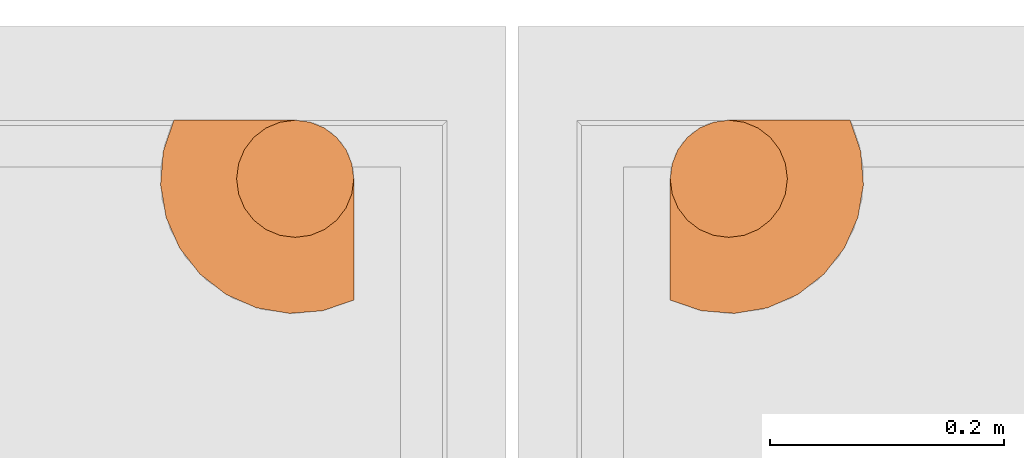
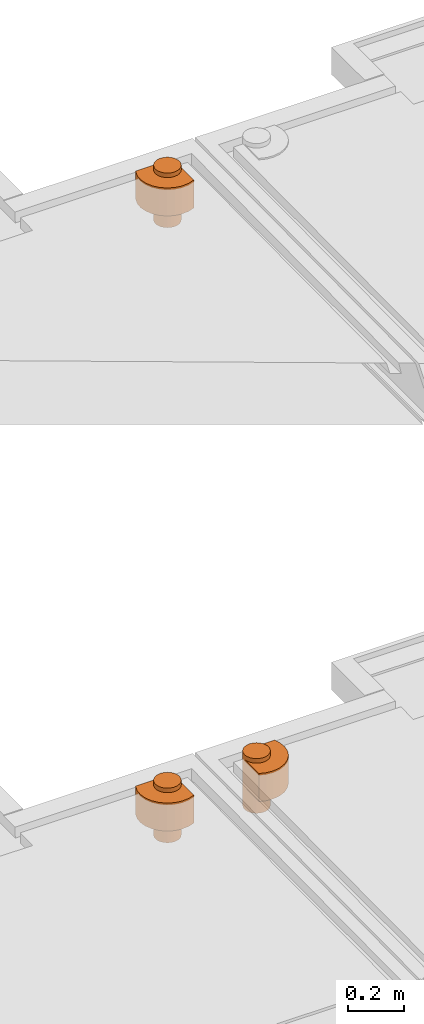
# One storey, part 26 of 31: 3 proxies, 3 elements without a shape of their own.
"""IFC2X3 building model written with IfcOpenShell, lengths in centimetres."""

from ifc_helpers import new_model, entity, si_unit, converted_unit, derived_unit, direction, frame, origin, place, context, subcontext, project, spatial, faceted_brep, source, transform, mapped, material, type_object, type_shapes, element, aggregate, save


model = new_model("IFC2X3")

# Units and contexts
model_context = context("Model", 3, precision=0.001, world=origin(), true_north=direction((6.12303176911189e-17, 1.0)))
body_context = subcontext(model_context, "Body", "Model", "MODEL_VIEW")
ifc_project = project(units=[si_unit("LENGTHUNIT", "METRE", prefix="CENTI"), si_unit("AREAUNIT", "SQUARE_METRE"), si_unit("VOLUMEUNIT", "CUBIC_METRE"), converted_unit("PLANEANGLEUNIT", "DEGREE", entity("IfcRatioMeasure", 0.0174532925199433), si_unit("PLANEANGLEUNIT", "RADIAN"), dimensions=[0, 0, 0, 0, 0, 0, 0]), si_unit("MASSUNIT", "GRAM", prefix="KILO"), derived_unit("MASSDENSITYUNIT", [(si_unit("MASSUNIT", "GRAM", prefix="KILO"), 1), (si_unit("LENGTHUNIT", "METRE"), -3)]), si_unit("TIMEUNIT", "SECOND"), si_unit("FREQUENCYUNIT", "HERTZ"), si_unit("THERMODYNAMICTEMPERATUREUNIT", "DEGREE_CELSIUS"), derived_unit("THERMALTRANSMITTANCEUNIT", [(si_unit("MASSUNIT", "GRAM", prefix="KILO"), 1), (si_unit("THERMODYNAMICTEMPERATUREUNIT", "KELVIN"), -1), (si_unit("TIMEUNIT", "SECOND"), -3)]), derived_unit("VOLUMETRICFLOWRATEUNIT", [(si_unit("LENGTHUNIT", "METRE"), 3), (si_unit("TIMEUNIT", "SECOND"), -1)]), si_unit("ELECTRICCURRENTUNIT", "AMPERE"), si_unit("ELECTRICVOLTAGEUNIT", "VOLT"), si_unit("POWERUNIT", "WATT"), si_unit("FORCEUNIT", "NEWTON"), si_unit("ILLUMINANCEUNIT", "LUX"), si_unit("LUMINOUSFLUXUNIT", "LUMEN"), si_unit("LUMINOUSINTENSITYUNIT", "CANDELA"), derived_unit("USERDEFINED", [(si_unit("MASSUNIT", "GRAM", prefix="KILO"), -1), (si_unit("LENGTHUNIT", "METRE"), -2), (si_unit("TIMEUNIT", "SECOND"), 3), (si_unit("LUMINOUSFLUXUNIT", "LUMEN"), 1)]), derived_unit("LINEARVELOCITYUNIT", [(si_unit("LENGTHUNIT", "METRE"), 1), (si_unit("TIMEUNIT", "SECOND"), -1)]), si_unit("PRESSUREUNIT", "PASCAL"), derived_unit("USERDEFINED", [(si_unit("LENGTHUNIT", "METRE"), -2), (si_unit("MASSUNIT", "GRAM", prefix="KILO"), 1), (si_unit("TIMEUNIT", "SECOND"), -2)])], contexts=[model_context])

# Site, building, storey
site_placement = place(None, origin())
site = spatial("IfcSite", under=ifc_project, at=site_placement, Name="Default", CompositionType="ELEMENT")
building_placement = place(site_placement, origin())
building = spatial("IfcBuilding", under=site, at=building_placement, Name="CAGE 03", CompositionType="ELEMENT")
storey_placement = place(building_placement, frame((0.0, 0.0, -400.0)))
storey = spatial("IfcBuildingStorey", under=building, at=storey_placement, Name="±0.00", CompositionType="ELEMENT", Elevation=-400.0)

# Assembly, proxy
assembly_1_placement = place(storey_placement, origin())
assembly_1 = element("IfcElementAssembly", 1, at=assembly_1_placement, inside=storey, Name="Assemblage Modèles génériques:BALCON TYPE 03", ObjectType="Assemblage Modèles génériques:BALCON TYPE 03", AssemblyPlace="NOTDEFINED", PredefinedType="USERDEFINED")
ifc_material = material(Name="BBGO_Résa")
building_element_proxy_type_1 = type_object("IfcBuildingElementProxyType", Name="Siphon de balcon", PredefinedType="NOTDEFINED", material=ifc_material)
shared_shape_1 = source(origin(), body_context, "Body", "Brep", [
    faceted_brep([(6.68784336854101, 14.159527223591, 9.69999999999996), (6.68784336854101, 14.1595272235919, 0.0), (6.18834125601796, 12.9536224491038, 0.0), (6.18834125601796, 12.9536224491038, 9.69999999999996), (6.68784336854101, 14.1595272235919, 22.0), (6.18834125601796, 12.9536224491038, 22.0), (6.18834125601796, 12.9536224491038, 24.0), (6.68784336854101, 14.1595272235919, 24.0), (6.01797038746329, 11.6595272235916, 0.0), (6.01797038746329, 11.6595272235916, 9.69999999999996), (6.01797038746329, 11.6595272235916, 22.0), (6.01797038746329, 11.6595272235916, 24.0), (6.18834125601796, 10.3654319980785, 9.69999999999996), (6.18834125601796, 10.3654319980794, 0.0), (6.68784336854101, 9.15952722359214, 0.0), (6.68784336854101, 9.15952722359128, 9.69999999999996), (6.18834125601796, 10.3654319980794, 22.0), (6.68784336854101, 9.15952722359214, 22.0), (6.68784336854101, 9.15952722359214, 24.0), (6.18834125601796, 10.3654319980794, 24.0), (7.48243648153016, 8.12399331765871, 0.0), (7.48243648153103, 8.12399331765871, 9.69999999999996), (7.48243648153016, 8.12399331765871, 24.0), (7.48243648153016, 8.12399331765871, 22.0), (7.48243648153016, 15.1950611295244, 9.69999999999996), (7.48243648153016, 15.1950611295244, 0.0), (7.48243648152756, 15.1950611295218, 22.0), (7.48243648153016, 15.1950611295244, 24.0), (8.51797038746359, 7.32940020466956, 9.69999999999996), (8.51797038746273, 7.32940020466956, 0.0), (9.72387516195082, 6.82989809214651, 0.0), (9.72387516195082, 6.82989809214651, 9.69999999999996), (8.51797038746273, 7.32940020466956, 22.0), (9.72387516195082, 6.82989809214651, 22.0), (9.72387516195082, 6.82989809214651, 24.0), (8.51797038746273, 7.32940020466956, 24.0), (11.017970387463, 6.65952722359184, 0.0), (11.0179703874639, 6.65952722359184, 9.69999999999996), (11.017970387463, 6.65952722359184, 22.0), (11.017970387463, 6.65952722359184, 24.0), (12.3120656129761, 6.82989809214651, 9.69999999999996), (12.3120656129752, 6.82989809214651, 0.0), (13.5179703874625, 7.32940020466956, 0.0), (13.5179703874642, 7.32940020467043, 9.69999999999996), (12.3120656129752, 6.82989809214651, 22.0), (13.5179703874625, 7.32940020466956, 22.0), (13.5179703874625, 7.32940020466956, 24.0), (12.3120656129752, 6.82989809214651, 24.0), (14.5535042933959, 8.12399331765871, 0.0), (14.5535042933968, 8.12399331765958, 9.69999999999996), (14.5535042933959, 8.12399331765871, 22.0), (14.5535042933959, 8.12399331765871, 24.0), (15.348097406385, 14.1595272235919, 22.0), (15.8475995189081, 12.9536224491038, 22.0), (16.0179703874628, 11.6595272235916, 22.0), (15.8475995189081, 10.3654319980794, 22.0), (15.348097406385, 9.15952722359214, 22.0), (0.15952722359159, 7.87215187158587, 22.0), (1.41532336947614, 5.33187598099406, 22.0), (3.25417812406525, 3.17580577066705, 22.0), (5.56443893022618, 1.53485465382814, 22.0), (8.20583014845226, 0.508658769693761, 22.0), (11.0179703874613, 0.15952722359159, 22.0), (13.8301106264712, 0.508658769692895, 22.0), (16.4715018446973, 1.5348546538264, 22.0), (18.7817626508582, 3.17580577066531, 22.0), (20.620617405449, 5.33187598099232, 22.0), (21.8764135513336, 7.87215187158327, 22.0), (14.5535042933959, 15.1950611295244, 22.0), (15.348097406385, 9.15952722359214, 9.69999999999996), (15.8475995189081, 10.3654319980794, 9.69999999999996), (16.0179703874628, 11.6595272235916, 9.69999999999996), (15.8475995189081, 12.9536224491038, 9.69999999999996), (15.348097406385, 14.159527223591, 9.69999999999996), (14.5535042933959, 15.1950611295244, 9.69999999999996), (21.8764135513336, 7.87215187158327, 9.69999999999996), (20.620617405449, 5.33187598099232, 9.69999999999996), (18.7817626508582, 3.17580577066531, 9.69999999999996), (16.4715018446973, 1.5348546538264, 9.69999999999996), (13.8301106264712, 0.508658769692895, 9.69999999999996), (11.0179703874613, 0.15952722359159, 9.69999999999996), (8.20583014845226, 0.508658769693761, 9.69999999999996), (5.56443893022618, 1.53485465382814, 9.69999999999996), (3.25417812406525, 3.17580577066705, 9.69999999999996), (1.41532336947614, 5.33187598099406, 9.69999999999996), (0.15952722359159, 7.87215187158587, 9.69999999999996), (0.15952722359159, 7.87215187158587, 21.5299497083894), (21.8764135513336, 7.87215187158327, 21.3763717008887), (15.348097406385, 9.15952722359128, 24.0), (15.8475995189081, 10.3654319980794, 24.0), (16.0179703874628, 11.6595272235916, 24.0), (15.8475995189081, 12.9536224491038, 24.0), (15.348097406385, 14.159527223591, 24.0), (14.5535042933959, 15.1950611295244, 24.0), (13.5179703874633, 15.9896542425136, 24.0), (12.3120656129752, 16.4891563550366, 24.0), (11.017970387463, 16.6595272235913, 24.0), (9.72387516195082, 16.4891563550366, 24.0), (8.51797038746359, 15.9896542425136, 24.0), (15.8475995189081, 10.3654319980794, 0.0), (15.348097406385, 9.15952722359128, 0.0), (8.51797038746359, 15.9896542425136, 0.0), (9.72387516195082, 16.4891563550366, 0.0), (11.017970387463, 16.6595272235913, 0.0), (12.3120656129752, 16.4891563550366, 0.0), (13.5179703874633, 15.9896542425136, 0.0), (14.5535042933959, 15.1950611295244, 0.0), (15.348097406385, 14.159527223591, 0.0), (15.8475995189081, 12.9536224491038, 0.0), (16.0179703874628, 11.6595272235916, 0.0)], [[[0, 1, 2, 3]], [[4, 5, 6, 7]], [[8, 9, 3, 2]], [[5, 10, 11, 6]], [[12, 13, 14, 15]], [[16, 17, 18, 19]], [[8, 13, 12, 9]], [[10, 16, 19, 11]], [[15, 14, 20, 21]], [[22, 18, 17, 23]], [[1, 0, 24, 25]], [[26, 4, 7, 27]], [[28, 29, 30, 31]], [[32, 33, 34, 35]], [[36, 37, 31, 30]], [[33, 38, 39, 34]], [[40, 41, 42, 43]], [[44, 45, 46, 47]], [[36, 41, 40, 37]], [[38, 44, 47, 39]], [[43, 42, 48, 49]], [[45, 50, 51, 46]], [[29, 28, 21, 20]], [[32, 35, 22, 23]], [[52, 53, 54, 55, 56, 50, 45, 44, 38, 33, 32, 23, 17, 16, 10, 5, 4, 26, 57, 58, 59, 60, 61, 62, 63, 64, 65, 66, 67, 68]], [[21, 28, 31, 37, 40, 43, 49, 69, 70, 71, 72, 73, 74, 75, 76, 77, 78, 79, 80, 81, 82, 83, 84, 85, 24, 0, 3, 9, 12, 15]], [[57, 26, 24, 85, 86]], [[86, 85, 84, 58, 57]], [[83, 59, 58, 84]], [[60, 82, 81, 61]], [[83, 82, 60, 59]], [[61, 81, 80, 62]], [[78, 64, 63, 79]], [[77, 65, 64, 78]], [[76, 75, 87, 67, 66]], [[77, 76, 66, 65]], [[79, 63, 62, 80]], [[68, 67, 87, 75, 74]], [[18, 22, 35, 34, 39, 47, 46, 51, 88, 89, 90, 91, 92, 93, 94, 95, 96, 97, 98, 27, 7, 6, 11, 19]], [[99, 100, 48, 42, 41, 36, 30, 29, 20, 14, 13, 8, 2, 1, 25, 101, 102, 103, 104, 105, 106, 107, 108, 109]], [[48, 100, 69, 49]], [[51, 50, 56, 88]], [[99, 70, 69, 100]], [[56, 55, 89, 88]], [[109, 108, 72, 71]], [[54, 53, 91, 90]], [[109, 71, 70, 99]], [[54, 90, 89, 55]], [[108, 107, 73, 72]], [[91, 53, 52, 92]], [[74, 106, 105, 94, 93, 68]], [[107, 106, 74, 73]], [[52, 68, 93, 92]], [[94, 105, 104, 95]], [[101, 25, 24, 26, 27, 98]], [[96, 103, 102, 97]], [[101, 98, 97, 102]], [[95, 104, 103, 96]]]),
])
type_shapes(building_element_proxy_type_1, [shared_shape_1])
proxy_1_placement = place(assembly_1_placement, frame((7046.83040780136, 3965.20701688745, 1528.0), z_axis=(0.0, 0.0, 1.0), x_axis=(0.707106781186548, -0.707106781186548, 0.0)))
proxy_1 = element("IfcBuildingElementProxy", 2, at=proxy_1_placement, type_object=building_element_proxy_type_1, material=ifc_material, Name="Siphon de balcon8:Siphon de balcon", ObjectType="Siphon de balcon", context=body_context, shape_type="MappedRepresentation", body=[
    mapped(shared_shape_1, transform((0.0, 0.0, 0.0), scale=1.0)),
])
aggregate(assembly_1, [proxy_1])

assembly_2_placement = place(storey_placement, origin())
assembly_2 = element("IfcElementAssembly", 3, at=assembly_2_placement, inside=storey, Name="Assemblage Modèles génériques:BALCON TYPE 04", ObjectType="Assemblage Modèles génériques:BALCON TYPE 04", AssemblyPlace="NOTDEFINED", PredefinedType="USERDEFINED")
building_element_proxy_type_2 = type_object("IfcBuildingElementProxyType", Name="Siphon de balcon", PredefinedType="NOTDEFINED", material=ifc_material)
shared_shape_2 = source(origin(), body_context, "Body", "Brep", [
    faceted_brep([(6.68784336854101, 14.159527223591, 9.69999999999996), (6.68784336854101, 14.1595272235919, 0.0), (6.18834125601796, 12.9536224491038, 0.0), (6.18834125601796, 12.9536224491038, 9.69999999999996), (6.68784336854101, 14.1595272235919, 22.0), (6.18834125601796, 12.9536224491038, 22.0), (6.18834125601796, 12.9536224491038, 24.0), (6.68784336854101, 14.1595272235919, 24.0), (6.01797038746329, 11.6595272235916, 0.0), (6.01797038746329, 11.6595272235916, 9.69999999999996), (6.01797038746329, 11.6595272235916, 22.0), (6.01797038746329, 11.6595272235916, 24.0), (6.18834125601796, 10.3654319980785, 9.69999999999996), (6.18834125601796, 10.3654319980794, 0.0), (6.68784336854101, 9.15952722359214, 0.0), (6.68784336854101, 9.15952722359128, 9.69999999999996), (6.18834125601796, 10.3654319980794, 22.0), (6.68784336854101, 9.15952722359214, 22.0), (6.68784336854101, 9.15952722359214, 24.0), (6.18834125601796, 10.3654319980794, 24.0), (7.48243648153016, 8.12399331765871, 0.0), (7.48243648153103, 8.12399331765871, 9.69999999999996), (7.48243648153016, 8.12399331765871, 24.0), (7.48243648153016, 8.12399331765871, 22.0), (7.48243648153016, 15.1950611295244, 9.69999999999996), (7.48243648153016, 15.1950611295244, 0.0), (7.48243648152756, 15.1950611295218, 22.0), (7.48243648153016, 15.1950611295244, 24.0), (8.51797038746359, 7.32940020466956, 9.69999999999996), (8.51797038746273, 7.32940020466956, 0.0), (9.72387516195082, 6.82989809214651, 0.0), (9.72387516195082, 6.82989809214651, 9.69999999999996), (8.51797038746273, 7.32940020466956, 22.0), (9.72387516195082, 6.82989809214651, 22.0), (9.72387516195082, 6.82989809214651, 24.0), (8.51797038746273, 7.32940020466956, 24.0), (11.017970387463, 6.65952722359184, 0.0), (11.017970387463, 6.65952722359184, 9.69999999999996), (11.017970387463, 6.65952722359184, 22.0), (11.017970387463, 6.65952722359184, 24.0), (12.3120656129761, 6.82989809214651, 9.69999999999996), (12.3120656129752, 6.82989809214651, 0.0), (13.5179703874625, 7.32940020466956, 0.0), (13.5179703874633, 7.32940020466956, 9.69999999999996), (12.3120656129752, 6.82989809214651, 22.0), (13.5179703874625, 7.32940020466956, 22.0), (13.5179703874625, 7.32940020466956, 24.0), (12.3120656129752, 6.82989809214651, 24.0), (14.5535042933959, 8.12399331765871, 0.0), (14.5535042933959, 8.12399331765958, 9.69999999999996), (14.5535042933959, 8.12399331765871, 22.0), (14.5535042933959, 8.12399331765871, 24.0), (15.348097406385, 14.1595272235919, 22.0), (15.8475995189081, 12.9536224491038, 22.0), (16.0179703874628, 11.6595272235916, 22.0), (15.8475995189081, 10.3654319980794, 22.0), (15.348097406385, 9.15952722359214, 22.0), (0.15952722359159, 7.87215187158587, 22.0), (1.41532336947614, 5.33187598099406, 22.0), (3.25417812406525, 3.17580577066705, 22.0), (5.56443893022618, 1.53485465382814, 22.0), (8.20583014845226, 0.508658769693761, 22.0), (11.0179703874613, 0.15952722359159, 22.0), (13.8301106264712, 0.508658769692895, 22.0), (16.4715018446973, 1.5348546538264, 22.0), (18.7817626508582, 3.17580577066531, 22.0), (20.620617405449, 5.33187598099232, 22.0), (21.8764135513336, 7.87215187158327, 22.0), (14.5535042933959, 15.1950611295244, 22.0), (15.348097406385, 9.15952722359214, 9.69999999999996), (15.8475995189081, 10.3654319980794, 9.69999999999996), (16.0179703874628, 11.6595272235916, 9.69999999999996), (15.8475995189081, 12.9536224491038, 9.69999999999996), (15.348097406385, 14.159527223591, 9.69999999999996), (14.5535042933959, 15.1950611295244, 9.69999999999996), (21.8764135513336, 7.87215187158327, 9.69999999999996), (20.620617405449, 5.33187598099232, 9.69999999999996), (18.7817626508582, 3.17580577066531, 9.69999999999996), (16.4715018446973, 1.5348546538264, 9.69999999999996), (13.8301106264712, 0.508658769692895, 9.69999999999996), (11.0179703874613, 0.15952722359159, 9.69999999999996), (8.20583014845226, 0.508658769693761, 9.69999999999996), (5.56443893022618, 1.53485465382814, 9.69999999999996), (3.25417812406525, 3.17580577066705, 9.69999999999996), (1.41532336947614, 5.33187598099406, 9.69999999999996), (0.15952722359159, 7.87215187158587, 9.69999999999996), (0.15952722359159, 7.87215187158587, 21.3763717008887), (21.8764135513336, 7.87215187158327, 21.5299497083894), (15.348097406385, 9.15952722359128, 24.0), (15.8475995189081, 10.3654319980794, 24.0), (16.0179703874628, 11.6595272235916, 24.0), (15.8475995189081, 12.9536224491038, 24.0), (15.348097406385, 14.159527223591, 24.0), (14.5535042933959, 15.1950611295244, 24.0), (13.5179703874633, 15.9896542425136, 24.0), (12.3120656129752, 16.4891563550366, 24.0), (11.017970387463, 16.6595272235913, 24.0), (9.72387516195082, 16.4891563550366, 24.0), (8.51797038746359, 15.9896542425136, 24.0), (15.8475995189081, 10.3654319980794, 0.0), (15.348097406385, 9.15952722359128, 0.0), (8.51797038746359, 15.9896542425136, 0.0), (9.72387516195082, 16.4891563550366, 0.0), (11.017970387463, 16.6595272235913, 0.0), (12.3120656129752, 16.4891563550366, 0.0), (13.5179703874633, 15.9896542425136, 0.0), (14.5535042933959, 15.1950611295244, 0.0), (15.348097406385, 14.159527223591, 0.0), (15.8475995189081, 12.9536224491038, 0.0), (16.0179703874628, 11.6595272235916, 0.0)], [[[0, 1, 2, 3]], [[4, 5, 6, 7]], [[8, 9, 3, 2]], [[5, 10, 11, 6]], [[12, 13, 14, 15]], [[16, 17, 18, 19]], [[8, 13, 12, 9]], [[10, 16, 19, 11]], [[15, 14, 20, 21]], [[22, 18, 17, 23]], [[1, 0, 24, 25]], [[26, 4, 7, 27]], [[28, 29, 30, 31]], [[32, 33, 34, 35]], [[36, 37, 31, 30]], [[33, 38, 39, 34]], [[40, 41, 42, 43]], [[44, 45, 46, 47]], [[36, 41, 40, 37]], [[38, 44, 47, 39]], [[43, 42, 48, 49]], [[45, 50, 51, 46]], [[29, 28, 21, 20]], [[32, 35, 22, 23]], [[52, 53, 54, 55, 56, 50, 45, 44, 38, 33, 32, 23, 17, 16, 10, 5, 4, 26, 57, 58, 59, 60, 61, 62, 63, 64, 65, 66, 67, 68]], [[21, 28, 31, 37, 40, 43, 49, 69, 70, 71, 72, 73, 74, 75, 76, 77, 78, 79, 80, 81, 82, 83, 84, 85, 24, 0, 3, 9, 12, 15]], [[57, 26, 24, 85, 86]], [[86, 85, 84, 58, 57]], [[83, 59, 58, 84]], [[60, 82, 81, 61]], [[83, 82, 60, 59]], [[61, 81, 80, 62]], [[78, 64, 63, 79]], [[77, 65, 64, 78]], [[76, 75, 87, 67, 66]], [[77, 76, 66, 65]], [[79, 63, 62, 80]], [[68, 67, 87, 75, 74]], [[18, 22, 35, 34, 39, 47, 46, 51, 88, 89, 90, 91, 92, 93, 94, 95, 96, 97, 98, 27, 7, 6, 11, 19]], [[99, 100, 48, 42, 41, 36, 30, 29, 20, 14, 13, 8, 2, 1, 25, 101, 102, 103, 104, 105, 106, 107, 108, 109]], [[48, 100, 69, 49]], [[51, 50, 56, 88]], [[99, 70, 69, 100]], [[56, 55, 89, 88]], [[109, 108, 72, 71]], [[54, 53, 91, 90]], [[109, 71, 70, 99]], [[54, 90, 89, 55]], [[108, 107, 73, 72]], [[91, 53, 52, 92]], [[74, 106, 105, 94, 93, 68]], [[107, 106, 74, 73]], [[52, 68, 93, 92]], [[94, 105, 104, 95]], [[101, 25, 24, 26, 27, 98]], [[96, 103, 102, 97]], [[101, 98, 97, 102]], [[95, 104, 103, 96]]]),
])
type_shapes(building_element_proxy_type_2, [shared_shape_2])
proxy_2_placement = place(assembly_2_placement, frame((7100.31946933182, 3949.62525373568, 1528.0), z_axis=(0.0, 0.0, 1.0), x_axis=(0.707106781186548, 0.707106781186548, 0.0)))
proxy_2 = element("IfcBuildingElementProxy", 4, at=proxy_2_placement, type_object=building_element_proxy_type_2, material=ifc_material, Name="Siphon de balcon9:Siphon de balcon", ObjectType="Siphon de balcon", context=body_context, shape_type="MappedRepresentation", body=[
    mapped(shared_shape_2, transform((0.0, 0.0, 0.0), scale=1.0)),
])
aggregate(assembly_2, [proxy_2])

assembly_3_placement = place(storey_placement, origin())
assembly_3 = element("IfcElementAssembly", 5, at=assembly_3_placement, inside=storey, Name="Assemblage Modèles génériques:BALCON TYPE 03", ObjectType="Assemblage Modèles génériques:BALCON TYPE 03", AssemblyPlace="NOTDEFINED", PredefinedType="USERDEFINED")
building_element_proxy_type_3 = type_object("IfcBuildingElementProxyType", Name="Siphon de balcon", PredefinedType="NOTDEFINED", material=ifc_material)
shared_shape_3 = source(origin(), body_context, "Body", "Brep", [
    faceted_brep([(6.68784336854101, 14.159527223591, 9.69999999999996), (6.68784336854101, 14.1595272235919, 0.0), (6.18834125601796, 12.9536224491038, 0.0), (6.18834125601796, 12.9536224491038, 9.69999999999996), (6.68784336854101, 14.1595272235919, 22.0), (6.18834125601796, 12.9536224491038, 22.0), (6.18834125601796, 12.9536224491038, 24.0), (6.68784336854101, 14.1595272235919, 24.0), (6.01797038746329, 11.6595272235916, 0.0), (6.01797038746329, 11.6595272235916, 9.69999999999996), (6.01797038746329, 11.6595272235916, 22.0), (6.01797038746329, 11.6595272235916, 24.0), (6.18834125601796, 10.3654319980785, 9.69999999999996), (6.18834125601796, 10.3654319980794, 0.0), (6.68784336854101, 9.15952722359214, 0.0), (6.68784336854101, 9.15952722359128, 9.69999999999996), (6.18834125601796, 10.3654319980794, 22.0), (6.68784336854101, 9.15952722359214, 22.0), (6.68784336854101, 9.15952722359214, 24.0), (6.18834125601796, 10.3654319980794, 24.0), (7.48243648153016, 8.12399331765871, 0.0), (7.48243648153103, 8.12399331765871, 9.69999999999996), (7.48243648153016, 8.12399331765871, 24.0), (7.48243648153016, 8.12399331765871, 22.0), (7.48243648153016, 15.1950611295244, 9.69999999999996), (7.48243648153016, 15.1950611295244, 0.0), (7.48243648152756, 15.1950611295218, 22.0), (7.48243648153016, 15.1950611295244, 24.0), (8.51797038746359, 7.32940020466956, 9.69999999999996), (8.51797038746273, 7.32940020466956, 0.0), (9.72387516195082, 6.82989809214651, 0.0), (9.72387516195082, 6.82989809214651, 9.69999999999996), (8.51797038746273, 7.32940020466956, 22.0), (9.72387516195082, 6.82989809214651, 22.0), (9.72387516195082, 6.82989809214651, 24.0), (8.51797038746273, 7.32940020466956, 24.0), (11.017970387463, 6.65952722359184, 0.0), (11.0179703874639, 6.65952722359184, 9.69999999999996), (11.017970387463, 6.65952722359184, 22.0), (11.017970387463, 6.65952722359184, 24.0), (12.3120656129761, 6.82989809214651, 9.69999999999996), (12.3120656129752, 6.82989809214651, 0.0), (13.5179703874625, 7.32940020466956, 0.0), (13.5179703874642, 7.32940020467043, 9.69999999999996), (12.3120656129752, 6.82989809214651, 22.0), (13.5179703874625, 7.32940020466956, 22.0), (13.5179703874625, 7.32940020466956, 24.0), (12.3120656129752, 6.82989809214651, 24.0), (14.5535042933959, 8.12399331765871, 0.0), (14.5535042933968, 8.12399331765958, 9.69999999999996), (14.5535042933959, 8.12399331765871, 22.0), (14.5535042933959, 8.12399331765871, 24.0), (15.348097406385, 14.1595272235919, 22.0), (15.8475995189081, 12.9536224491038, 22.0), (16.0179703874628, 11.6595272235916, 22.0), (15.8475995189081, 10.3654319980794, 22.0), (15.348097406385, 9.15952722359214, 22.0), (0.15952722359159, 7.87215187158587, 22.0), (1.41532336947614, 5.33187598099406, 22.0), (3.25417812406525, 3.17580577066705, 22.0), (5.56443893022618, 1.53485465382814, 22.0), (8.20583014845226, 0.508658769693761, 22.0), (11.0179703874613, 0.15952722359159, 22.0), (13.8301106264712, 0.508658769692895, 22.0), (16.4715018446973, 1.5348546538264, 22.0), (18.7817626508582, 3.17580577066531, 22.0), (20.620617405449, 5.33187598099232, 22.0), (21.8764135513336, 7.87215187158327, 22.0), (14.5535042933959, 15.1950611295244, 22.0), (15.348097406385, 9.15952722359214, 9.69999999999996), (15.8475995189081, 10.3654319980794, 9.69999999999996), (16.0179703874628, 11.6595272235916, 9.69999999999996), (15.8475995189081, 12.9536224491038, 9.69999999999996), (15.348097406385, 14.159527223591, 9.69999999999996), (14.5535042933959, 15.1950611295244, 9.69999999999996), (21.8764135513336, 7.87215187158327, 9.69999999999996), (20.620617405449, 5.33187598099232, 9.69999999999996), (18.7817626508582, 3.17580577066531, 9.69999999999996), (16.4715018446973, 1.5348546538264, 9.69999999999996), (13.8301106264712, 0.508658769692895, 9.69999999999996), (11.0179703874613, 0.15952722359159, 9.69999999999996), (8.20583014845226, 0.508658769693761, 9.69999999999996), (5.56443893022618, 1.53485465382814, 9.69999999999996), (3.25417812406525, 3.17580577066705, 9.69999999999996), (1.41532336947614, 5.33187598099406, 9.69999999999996), (0.15952722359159, 7.87215187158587, 9.69999999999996), (0.15952722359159, 7.87215187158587, 21.5299497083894), (21.8764135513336, 7.87215187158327, 21.3763717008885), (15.348097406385, 9.15952722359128, 24.0), (15.8475995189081, 10.3654319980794, 24.0), (16.0179703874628, 11.6595272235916, 24.0), (15.8475995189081, 12.9536224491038, 24.0), (15.348097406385, 14.159527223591, 24.0), (14.5535042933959, 15.1950611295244, 24.0), (13.5179703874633, 15.9896542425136, 24.0), (12.3120656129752, 16.4891563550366, 24.0), (11.017970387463, 16.6595272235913, 24.0), (9.72387516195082, 16.4891563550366, 24.0), (8.51797038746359, 15.9896542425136, 24.0), (15.8475995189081, 10.3654319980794, 0.0), (15.348097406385, 9.15952722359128, 0.0), (8.51797038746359, 15.9896542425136, 0.0), (9.72387516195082, 16.4891563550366, 0.0), (11.017970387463, 16.6595272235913, 0.0), (12.3120656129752, 16.4891563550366, 0.0), (13.5179703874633, 15.9896542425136, 0.0), (14.5535042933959, 15.1950611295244, 0.0), (15.348097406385, 14.159527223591, 0.0), (15.8475995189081, 12.9536224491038, 0.0), (16.0179703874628, 11.6595272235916, 0.0)], [[[0, 1, 2, 3]], [[4, 5, 6, 7]], [[8, 9, 3, 2]], [[5, 10, 11, 6]], [[12, 13, 14, 15]], [[16, 17, 18, 19]], [[8, 13, 12, 9]], [[10, 16, 19, 11]], [[15, 14, 20, 21]], [[22, 18, 17, 23]], [[1, 0, 24, 25]], [[26, 4, 7, 27]], [[28, 29, 30, 31]], [[32, 33, 34, 35]], [[36, 37, 31, 30]], [[33, 38, 39, 34]], [[40, 41, 42, 43]], [[44, 45, 46, 47]], [[36, 41, 40, 37]], [[38, 44, 47, 39]], [[43, 42, 48, 49]], [[45, 50, 51, 46]], [[29, 28, 21, 20]], [[32, 35, 22, 23]], [[52, 53, 54, 55, 56, 50, 45, 44, 38, 33, 32, 23, 17, 16, 10, 5, 4, 26, 57, 58, 59, 60, 61, 62, 63, 64, 65, 66, 67, 68]], [[21, 28, 31, 37, 40, 43, 49, 69, 70, 71, 72, 73, 74, 75, 76, 77, 78, 79, 80, 81, 82, 83, 84, 85, 24, 0, 3, 9, 12, 15]], [[57, 26, 24, 85, 86]], [[86, 85, 84, 58, 57]], [[83, 59, 58, 84]], [[60, 82, 81, 61]], [[83, 82, 60, 59]], [[61, 81, 80, 62]], [[78, 64, 63, 79]], [[77, 65, 64, 78]], [[76, 75, 87, 67, 66]], [[77, 76, 66, 65]], [[79, 63, 62, 80]], [[68, 67, 87, 75, 74]], [[18, 22, 35, 34, 39, 47, 46, 51, 88, 89, 90, 91, 92, 93, 94, 95, 96, 97, 98, 27, 7, 6, 11, 19]], [[99, 100, 48, 42, 41, 36, 30, 29, 20, 14, 13, 8, 2, 1, 25, 101, 102, 103, 104, 105, 106, 107, 108, 109]], [[48, 100, 69, 49]], [[51, 50, 56, 88]], [[99, 70, 69, 100]], [[56, 55, 89, 88]], [[109, 108, 72, 71]], [[54, 53, 91, 90]], [[109, 71, 70, 99]], [[54, 90, 89, 55]], [[108, 107, 73, 72]], [[91, 53, 52, 92]], [[74, 106, 105, 94, 93, 68]], [[107, 106, 74, 73]], [[52, 68, 93, 92]], [[94, 105, 104, 95]], [[101, 25, 24, 26, 27, 98]], [[96, 103, 102, 97]], [[101, 98, 97, 102]], [[95, 104, 103, 96]]]),
])
type_shapes(building_element_proxy_type_3, [shared_shape_3])
proxy_3_placement = place(assembly_3_placement, frame((7046.83040780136, 3965.20701688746, 1798.0), z_axis=(0.0, 0.0, 1.0), x_axis=(0.707106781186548, -0.707106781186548, 0.0)))
proxy_3 = element("IfcBuildingElementProxy", 6, at=proxy_3_placement, type_object=building_element_proxy_type_3, material=ifc_material, Name="Siphon de balcon10:Siphon de balcon", ObjectType="Siphon de balcon", context=body_context, shape_type="MappedRepresentation", body=[
    mapped(shared_shape_3, transform((0.0, 0.0, 0.0), scale=1.0)),
])
aggregate(assembly_3, [proxy_3])

save(model, "model.ifc")
